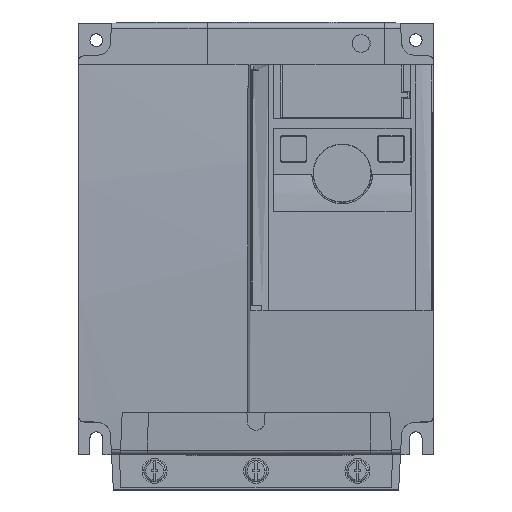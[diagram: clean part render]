
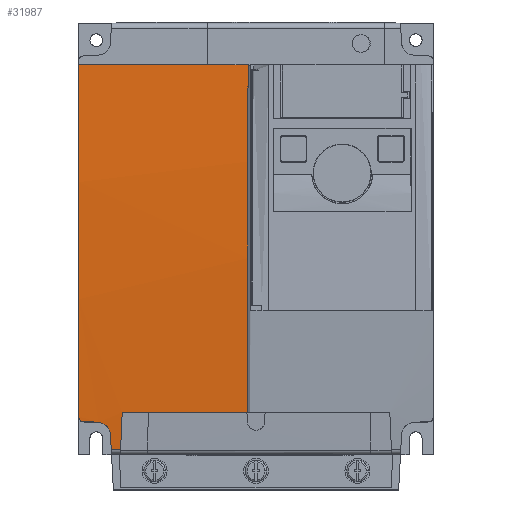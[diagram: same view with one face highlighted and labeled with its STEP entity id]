
A CAD part, top view. The second image highlights one B-rep face of the part: STEP entity #31987.
In plain terms, the highlighted cylindrical face has radius 1100 mm (diameter 2200 mm), a partial arc.
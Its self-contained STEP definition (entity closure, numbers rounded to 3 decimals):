
#3419=CARTESIAN_POINT('',(-57.094,130.566,168.199));
#3420=CARTESIAN_POINT('',(-57.2,130.768,166.181));
#3421=CARTESIAN_POINT('',(-57.306,130.963,164.162));
#3422=CARTESIAN_POINT('',(-57.412,131.154,162.143));
#3428=CARTESIAN_POINT('',(-57.094,130.566,168.199));
#4182=CARTESIAN_POINT('',(-57.412,131.154,162.143));
#4183=CARTESIAN_POINT('',(-57.433,131.192,161.736));
#4184=CARTESIAN_POINT('',(-57.576,131.268,160.928));
#4185=CARTESIAN_POINT('',(-58.075,131.371,159.807));
#4186=CARTESIAN_POINT('',(-58.833,131.46,158.834));
#4187=CARTESIAN_POINT('',(-59.808,131.529,158.073));
#4188=CARTESIAN_POINT('',(-60.937,131.574,157.573));
#4189=CARTESIAN_POINT('',(-61.74,131.587,157.433));
#4190=CARTESIAN_POINT('',(-62.143,131.589,157.412));
#4208=CARTESIAN_POINT('',(-53.421,130.566,168.199));
#4209=CARTESIAN_POINT('',(-53.208,131.055,163.302));
#4210=CARTESIAN_POINT('',(-52.994,131.511,158.403));
#4211=CARTESIAN_POINT('',(-52.78,131.933,153.5));
#4213=DIRECTION('',(1.,0.,0.));
#4214=VECTOR('',#4213,3.673);
#4215=CARTESIAN_POINT('',(-57.094,130.566,168.199));
#4216=LINE('',#4215,#4214);
#4217=CARTESIAN_POINT('',(-68.105,131.617,157.099));
#4218=CARTESIAN_POINT('',(-66.118,131.608,157.203));
#4219=CARTESIAN_POINT('',(-64.13,131.598,157.308));
#4220=CARTESIAN_POINT('',(-62.143,131.589,157.412));
#4222=DIRECTION('',(-1.,0.,0.));
#4223=VECTOR('',#4222,66.859);
#4224=CARTESIAN_POINT('',(-3.141,135.179,16.5));
#4225=LINE('',#4224,#4223);
#4226=CARTESIAN_POINT('',(-3.373,131.933,153.5));
#4227=CARTESIAN_POINT('',(-3.347,133.242,138.32));
#4228=CARTESIAN_POINT('',(-3.295,135.229,107.906));
#4229=CARTESIAN_POINT('',(-3.218,136.312,62.199));
#4230=CARTESIAN_POINT('',(-3.166,135.767,31.725));
#4231=CARTESIAN_POINT('',(-3.141,135.179,16.5));
#4233=DIRECTION('',(1.,0.,0.));
#4234=VECTOR('',#4233,49.406);
#4235=CARTESIAN_POINT('',(-52.78,131.933,153.5));
#4236=LINE('',#4235,#4234);
#5010=CARTESIAN_POINT('',(-53.421,130.566,168.199));
#11903=CARTESIAN_POINT('',(-68.105,131.617,
157.099));
#11904=CARTESIAN_POINT('',(-68.305,131.618,
157.089));
#11905=CARTESIAN_POINT('',(-68.704,131.625,
157.007));
#11906=CARTESIAN_POINT('',(-69.241,131.652,
156.71));
#11907=CARTESIAN_POINT('',(-69.666,131.692,
156.264));
#11908=CARTESIAN_POINT('',(-69.938,131.74,
155.711));
#11909=CARTESIAN_POINT('',(-70.,131.776,155.305));
#11910=CARTESIAN_POINT('',(-70.,131.794,155.102));
#12376=CARTESIAN_POINT('',(-70.,-964.,59.));
#12377=DIRECTION('',(-1.,0.,0.));
#12378=DIRECTION('',(0.,0.996,0.087));
#12379=AXIS2_PLACEMENT_3D('',#12376,#12377,#12378);
#20007=CARTESIAN_POINT('',(-62.143,131.589,
157.412));
#20008=VERTEX_POINT('',#20007);
#20009=VERTEX_POINT('',#4217);
#20310=CARTESIAN_POINT('',(-70.,131.794,155.102));
#20312=VERTEX_POINT('',#20310);
#20314=CARTESIAN_POINT('',(-70.,135.179,16.5));
#20315=VERTEX_POINT('',#20314);
#20334=VERTEX_POINT('',#3428);
#20335=VERTEX_POINT('',#3422);
#22368=CARTESIAN_POINT('',(-3.141,135.179,
16.5));
#22369=VERTEX_POINT('',#22368);
#22388=VERTEX_POINT('',#4226);
#22409=CARTESIAN_POINT('',(-52.78,131.933,
153.5));
#22410=VERTEX_POINT('',#22409);
#22722=VERTEX_POINT('',#5010);
#31964=CARTESIAN_POINT('',(-70.,-964.,59.));
#31965=DIRECTION('',(1.,0.,0.));
#31966=DIRECTION('',(0.,0.,-1.));
#31967=AXIS2_PLACEMENT_3D('',#31964,#31965,#31966);
#31968=CYLINDRICAL_SURFACE('',#31967,1100.);
#31970=ORIENTED_EDGE('',*,*,#31969,.F.);
#31972=ORIENTED_EDGE('',*,*,#31971,.F.);
#31973=ORIENTED_EDGE('',*,*,#30710,.T.);
#31974=ORIENTED_EDGE('',*,*,#31949,.T.);
#31975=ORIENTED_EDGE('',*,*,#30779,.F.);
#31977=ORIENTED_EDGE('',*,*,#31976,.T.);
#31979=ORIENTED_EDGE('',*,*,#31978,.T.);
#31980=ORIENTED_EDGE('',*,*,#25812,.F.);
#31982=ORIENTED_EDGE('',*,*,#31981,.F.);
#31984=ORIENTED_EDGE('',*,*,#31983,.F.);
#31985=EDGE_LOOP('',(#31970,#31972,#31973,#31974,#31975,#31977,#31979,#31980,
#31982,#31984));
#31986=FACE_OUTER_BOUND('',#31985,.F.);
#3423=B_SPLINE_CURVE_WITH_KNOTS('',3,(#3419,#3420,#3421,#3422),.UNSPECIFIED.,
.F.,.F.,(4,4),(0.,1.),.UNSPECIFIED.);
#4191=B_SPLINE_CURVE_WITH_KNOTS('',3,(#4182,#4183,#4184,#4185,#4186,#4187,#4188,
#4189,#4190),.UNSPECIFIED.,.F.,.F.,(4,1,1,1,1,1,4),(0.,0.167,
0.333,0.5,0.667,0.833,1.),
.UNSPECIFIED.);
#4212=B_SPLINE_CURVE_WITH_KNOTS('',3,(#4208,#4209,#4210,#4211),.UNSPECIFIED.,
.F.,.F.,(4,4),(0.,1.),.UNSPECIFIED.);
#4221=B_SPLINE_CURVE_WITH_KNOTS('',3,(#4217,#4218,#4219,#4220),.UNSPECIFIED.,
.F.,.F.,(4,4),(0.,1.),.UNSPECIFIED.);
#4232=B_SPLINE_CURVE_WITH_KNOTS('',3,(#4226,#4227,#4228,#4229,#4230,#4231),
.UNSPECIFIED.,.F.,.F.,(4,1,1,4),(0.,0.333,0.667,1.),
.UNSPECIFIED.);
#11911=B_SPLINE_CURVE_WITH_KNOTS('',3,(#11903,#11904,#11905,#11906,#11907,
#11908,#11909,#11910),.UNSPECIFIED.,.F.,.F.,(4,1,1,1,1,4),(0.,0.2,0.4,
0.6,0.8,1.),.UNSPECIFIED.);
#12380=CIRCLE('',#12379,1100.);
#25812=EDGE_CURVE('',#22369,#20315,#4225,.T.);
#30710=EDGE_CURVE('',#20334,#20335,#3423,.T.);
#30779=EDGE_CURVE('',#20009,#20008,#4221,.T.);
#31949=EDGE_CURVE('',#20335,#20008,#4191,.T.);
#31969=EDGE_CURVE('',#22722,#22410,#4212,.T.);
#31971=EDGE_CURVE('',#20334,#22722,#4216,.T.);
#31976=EDGE_CURVE('',#20009,#20312,#11911,.T.);
#31978=EDGE_CURVE('',#20312,#20315,#12380,.T.);
#31981=EDGE_CURVE('',#22388,#22369,#4232,.T.);
#31983=EDGE_CURVE('',#22410,#22388,#4236,.T.);
#31987=ADVANCED_FACE('',(#31986),#31968,.T.);
